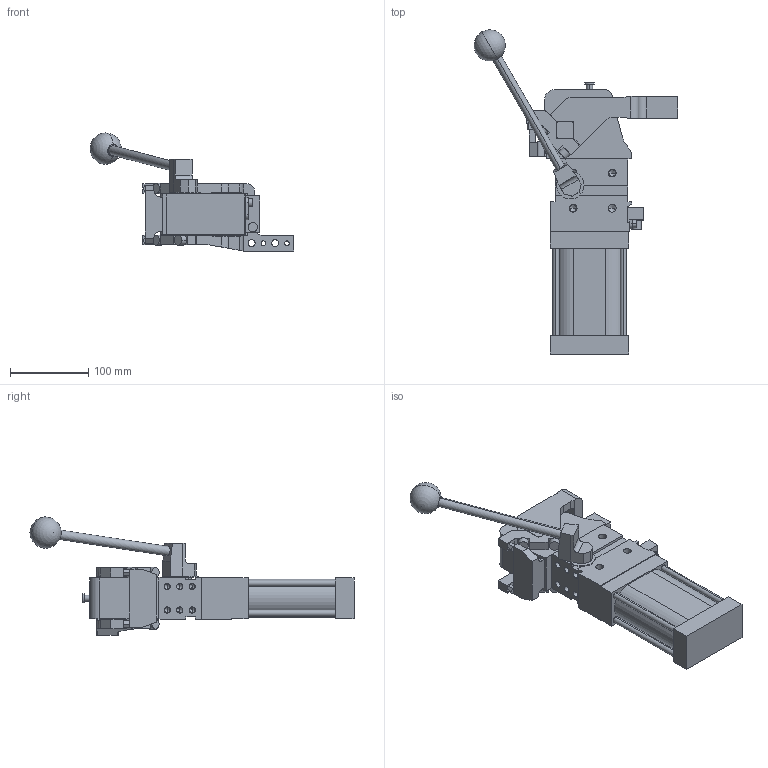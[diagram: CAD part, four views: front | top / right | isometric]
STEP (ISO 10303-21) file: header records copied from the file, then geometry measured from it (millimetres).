
FILE_DESCRIPTION (( 'STEP AP214' ), '1' );
FILE_NAME ('cplm63latv1dsi1g_16.STEP', '2023-01-26T14:48:38', ( '' ), ( '' ), 'SwSTEP 2.0', 'SolidWorks 2022', '' );
FILE_SCHEMA (( 'AUTOMOTIVE_DESIGN' ));
Length unit declared in the file: millimetre
Products named in the file (5): blocchetto_VEP_0; comando_manuale_cplm_63; meccanica_cplm_63_tassello_esterno; leva_v1ds_cpl63t; cplm63latv1dsi1g_16
Assembly tree (4 placements, depth 2):
  cplm63latv1dsi1g_16
    meccanica_cplm_63_tassello_esterno
    blocchetto_VEP_0
    leva_v1ds_cpl63t
    comando_manuale_cplm_63
Bounding box: 260.57 x 414.56 x 151 mm (x, y, z)
Volume: 1909111.5 mm3; surface area: 216504 mm2
Topology: 4 solids, 4 shells, 467 faces, 1233 edges, 769 vertices
Faces by surface type: plane 248, cylinder 167, cone 50, sphere 2
Entity records: 15710 total; most frequent: CARTESIAN_POINT 2524, DIRECTION 2488, ORIENTED_EDGE 2364, EDGE_CURVE 1182, AXIS2_PLACEMENT_3D 844, LINE 800, VECTOR 800, VERTEX_POINT 766
